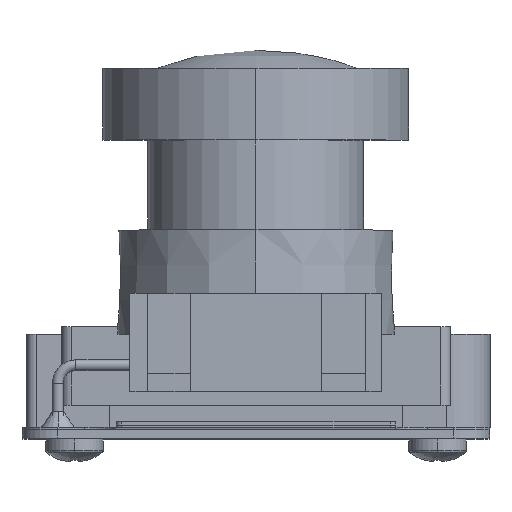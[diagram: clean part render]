
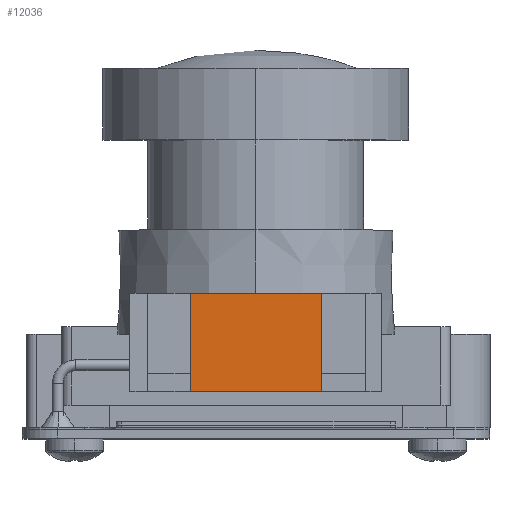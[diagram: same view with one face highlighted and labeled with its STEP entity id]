
A CAD part, top view. The second image highlights one B-rep face of the part: STEP entity #12036.
In plain terms, the highlighted planar face has unit normal (0, 0, 1).
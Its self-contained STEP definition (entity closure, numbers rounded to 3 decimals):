
#155 = EDGE_LOOP ( 'NONE', ( #2757, #8876, #10216, #8445 ) ) ;
#333 = CARTESIAN_POINT ( 'NONE',  ( 16.653, 7.56, 0.073 ) ) ;
#496 = PLANE ( 'NONE',  #7752 ) ;
#515 = EDGE_CURVE ( 'NONE', #2958, #14452, #4929, .T. ) ;
#919 = CARTESIAN_POINT ( 'NONE',  ( 0., 2.11, 0.073 ) ) ;
#1079 = VERTEX_POINT ( 'NONE', #13644 ) ;
#1757 = VECTOR ( 'NONE', #4078, 1000. ) ;
#2187 = VECTOR ( 'NONE', #3243, 1000. ) ;
#2649 = VECTOR ( 'NONE', #6127, 1000. ) ;
#2757 = ORIENTED_EDGE ( 'NONE', *, *, #8803, .T. ) ;
#2920 = DIRECTION ( 'NONE',  ( -1., 0., 0. ) ) ;
#2958 = VERTEX_POINT ( 'NONE', #10134 ) ;
#3243 = DIRECTION ( 'NONE',  ( 1., 0., 0. ) ) ;
#3616 = LINE ( 'NONE', #5981, #2649 ) ;
#4078 = DIRECTION ( 'NONE',  ( 0., -1., 0. ) ) ;
#4929 = LINE ( 'NONE', #333, #1757 ) ;
#5834 = EDGE_CURVE ( 'NONE', #15031, #2958, #3616, .T. ) ;
#5981 = CARTESIAN_POINT ( 'NONE',  ( 0., 7.56, 0.073 ) ) ;
#6127 = DIRECTION ( 'NONE',  ( 1., 0., 0. ) ) ;
#6823 = CARTESIAN_POINT ( 'NONE',  ( 9.352, 7.56, 0.073 ) ) ;
#7539 = VECTOR ( 'NONE', #9013, 1000. ) ;
#7739 = CARTESIAN_POINT ( 'NONE',  ( 0., 7.56, 0.073 ) ) ;
#7752 = AXIS2_PLACEMENT_3D ( 'NONE', #7739, #8968, #2920 ) ;
#7857 = EDGE_CURVE ( 'NONE', #15031, #1079, #15000, .T. ) ;
#8124 = FACE_OUTER_BOUND ( 'NONE', #155, .T. ) ;
#8413 = CARTESIAN_POINT ( 'NONE',  ( 9.352, 7.56, 0.073 ) ) ;
#8445 = ORIENTED_EDGE ( 'NONE', *, *, #7857, .T. ) ;
#8486 = CARTESIAN_POINT ( 'NONE',  ( 16.653, 2.11, 0.073 ) ) ;
#8803 = EDGE_CURVE ( 'NONE', #1079, #14452, #9423, .T. ) ;
#8876 = ORIENTED_EDGE ( 'NONE', *, *, #515, .F. ) ;
#8968 = DIRECTION ( 'NONE',  ( 0., 0., -1. ) ) ;
#9013 = DIRECTION ( 'NONE',  ( 0., -1., 0. ) ) ;
#9423 = LINE ( 'NONE', #919, #2187 ) ;
#10134 = CARTESIAN_POINT ( 'NONE',  ( 16.653, 7.56, 0.073 ) ) ;
#10216 = ORIENTED_EDGE ( 'NONE', *, *, #5834, .F. ) ;
#12036 = ADVANCED_FACE ( 'NONE', ( #8124 ), #496, .F. ) ;
#13644 = CARTESIAN_POINT ( 'NONE',  ( 9.352, 2.11, 0.073 ) ) ;
#14452 = VERTEX_POINT ( 'NONE', #8486 ) ;
#15000 = LINE ( 'NONE', #6823, #7539 ) ;
#15031 = VERTEX_POINT ( 'NONE', #8413 ) ;
